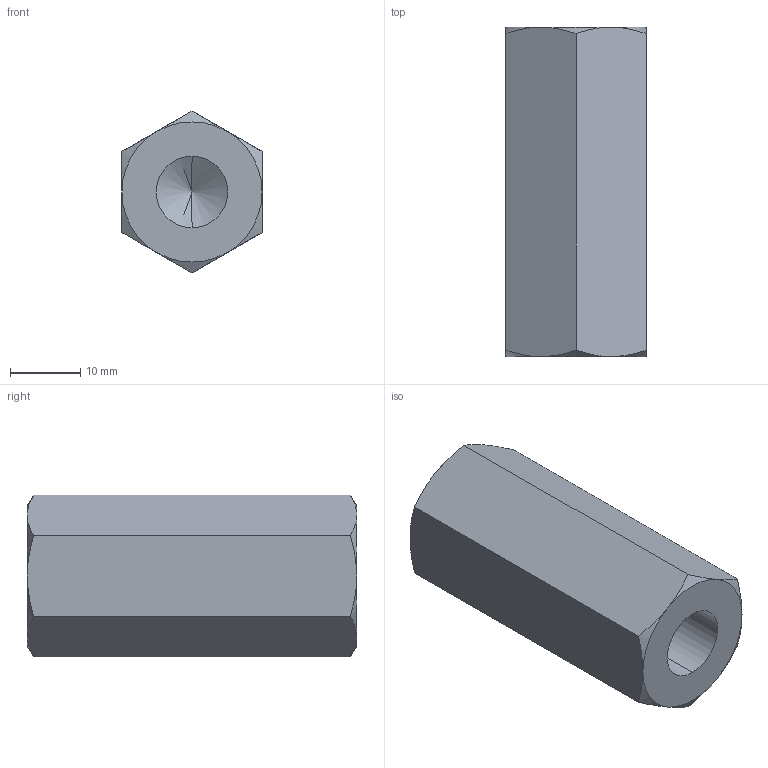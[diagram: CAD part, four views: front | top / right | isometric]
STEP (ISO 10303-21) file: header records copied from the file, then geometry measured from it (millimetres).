
FILE_DESCRIPTION (( 'STEP AP214' ), '1' );
FILE_NAME ('H.STEP', '2017-03-22T13:48:07', ( '' ), ( '' ), 'SwSTEP 2.0', 'SolidWorks 2016', '' );
FILE_SCHEMA (( 'AUTOMOTIVE_DESIGN' ));
Length unit declared in the file: millimetre
Products named in the file (1): H
Bounding box: 20 x 47 x 23.09 mm (x, y, z)
Volume: 12748.5 mm3; surface area: 5276.1 mm2
Topology: 1 solids, 1 shells, 24 faces, 52 edges, 29 vertices
Faces by surface type: cone 14, plane 8, cylinder 2
Entity records: 778 total; most frequent: CARTESIAN_POINT 248, ORIENTED_EDGE 100, DIRECTION 92, EDGE_CURVE 50, AXIS2_PLACEMENT_3D 41, VERTEX_POINT 29, EDGE_LOOP 25, ADVANCED_FACE 24
